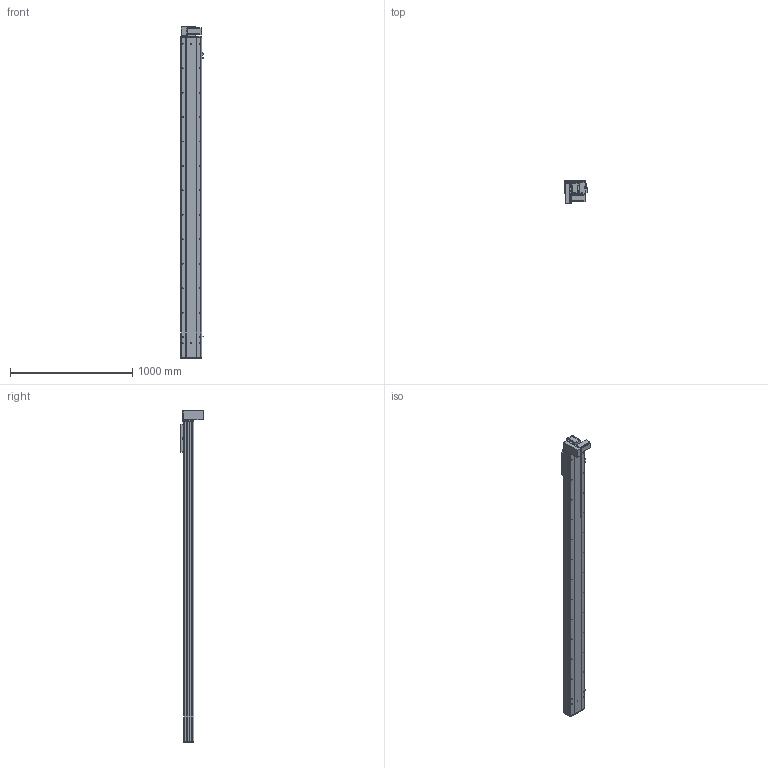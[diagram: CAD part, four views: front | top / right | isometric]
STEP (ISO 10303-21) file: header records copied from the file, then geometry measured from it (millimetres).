
FILE_DESCRIPTION (( 'STEP AP203' ), '1' );
FILE_NAME ('Y170CB-D105-S2300-BM-P400W.STEP', '2020-02-20T07:39:09', ( '微软用户' ), ( '微软中国' ), 'SwSTEP 2.0', 'SolidWorks 2017', '' );
FILE_SCHEMA (( 'CONFIG_CONTROL_DESIGN' ));
Length unit declared in the file: millimetre
Products named in the file (18): 00B-俋欶BM--163; 70CB--耜裔; 70B喘謫眊----; 70C-雄赽釱-奻-; B-源倛裔啣; Y170CB-D105-S2300-BM-P400W; 0C--雄赽釱俋欶-170; 0B-萇儂楊擘啣; 70CB-詩湍--; san松下电机400不带刹车----; Y100-135俋离換覜ん--; 70CB-掛极-; Y170CB-陔俋离換覜結え---; --70CB --喘謫眊楊擘啣-; Y1埴倛裔; 70CB-耜裔啣-; 17B-耜蚾蟀諉啣----; 70C--詩湍揤踡え-
Assembly tree (21 placements, depth 2):
  Y170CB-D105-S2300-BM-P400W
    B-源倛裔啣
    0B-萇儂楊擘啣
    san松下电机400不带刹车----
    70CB-掛极-
    --70CB --喘謫眊楊擘啣-
    70CB-耜裔啣-  x2
    70C--詩湍揤踡え-  x2
    70CB--耜裔
    70C-雄赽釱-奻-
    0C--雄赽釱俋欶-170
    70CB-詩湍--
    Y100-135俋离換覜ん--  x3
    Y170CB-陔俋离換覜結え---
    Y1埴倛裔
    17B-耜蚾蟀諉啣----
    00B-俋欶BM--163
    70B喘謫眊----
Bounding box: 183.5 x 184 x 2716 mm (x, y, z)
Volume: 11657453.8 mm3; surface area: 4207712.9 mm2
Topology: 21 solids, 21 shells, 1063 faces, 2861 edges, 1898 vertices
Faces by surface type: cylinder 577, plane 462, cone 24
Entity records: 34080 total; most frequent: CARTESIAN_POINT 6276, DIRECTION 5546, ORIENTED_EDGE 5204, EDGE_CURVE 2602, AXIS2_PLACEMENT_3D 2048, VERTEX_POINT 1728, VECTOR 1450, LINE 1450
